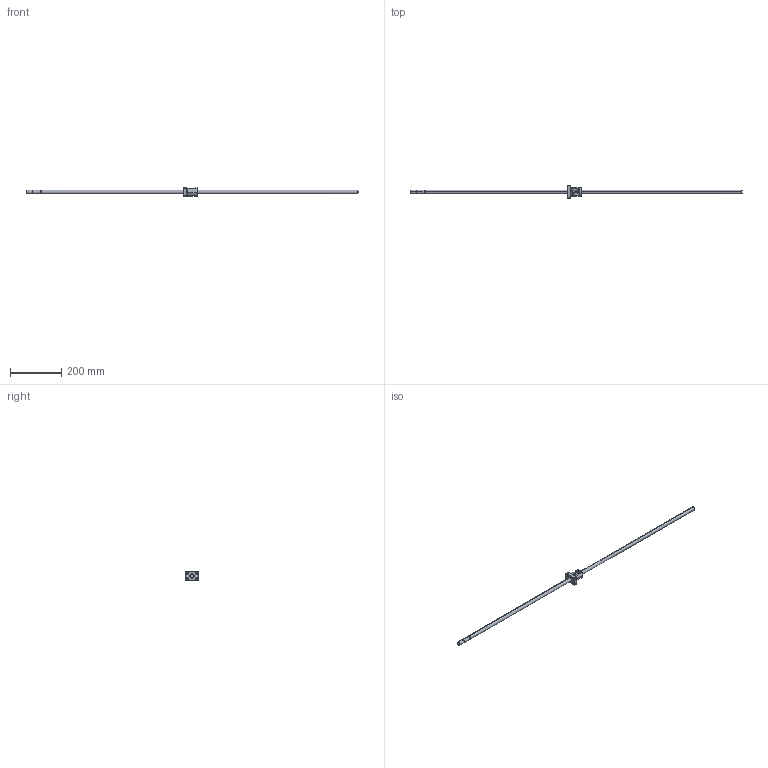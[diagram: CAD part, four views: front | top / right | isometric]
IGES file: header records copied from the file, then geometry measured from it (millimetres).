
Global section: file name: No Iges File Name specified; native system: AutoDesk Inventor R10; preprocessor: AutoDesk Inventor Iges Exporter R10; author: No Author specified; organization: No Organization specified; date: 20101224.141029; units: millimetre
Bounding box: 1300 x 50 x 34 mm (x, y, z)
Surface area: 75226.9 mm2 (no closed solid volume)
Topology: 0 solids, 0 shells, 132 faces, 964 edges, 964 vertices
Faces by surface type: bspline 132
